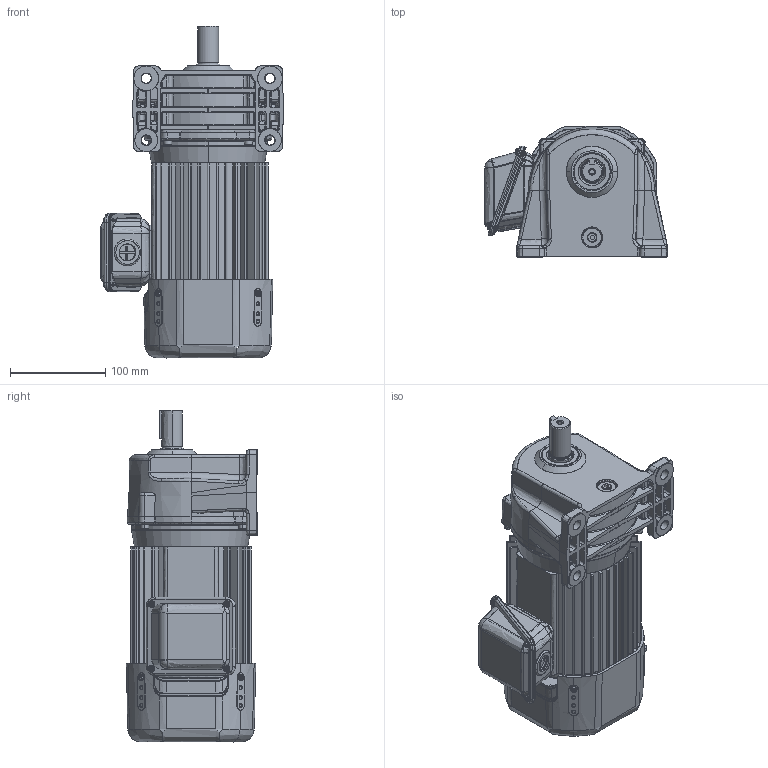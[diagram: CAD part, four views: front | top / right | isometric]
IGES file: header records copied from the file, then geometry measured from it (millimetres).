
Start section: SolidWorks IGES file using analytic representation for surfaces
Global section: file name: \\100.100.100.8\1_共有作業フォルダ\1-5_３Ｄデータ\solidworks\personal-folder\H.Nagayama\SGP1外形\P1(3D)\igs\TMLB2-04-(5~25).IGS; native system: SolidWorks 2018; preprocessor: SolidWorks 2018; author: sigma-giken; date: 200612.134328; units: millimetre
Bounding box: 192.18 x 138 x 349 mm (x, y, z)
Surface area: 421397.1 mm2 (no closed solid volume)
Topology: 0 solids, 0 shells, 1992 faces, 24604 edges, 24568 vertices
Faces by surface type: bspline 1023, revolution 969
